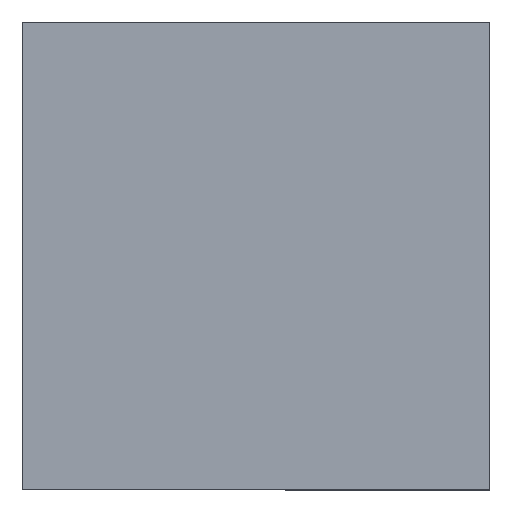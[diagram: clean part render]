
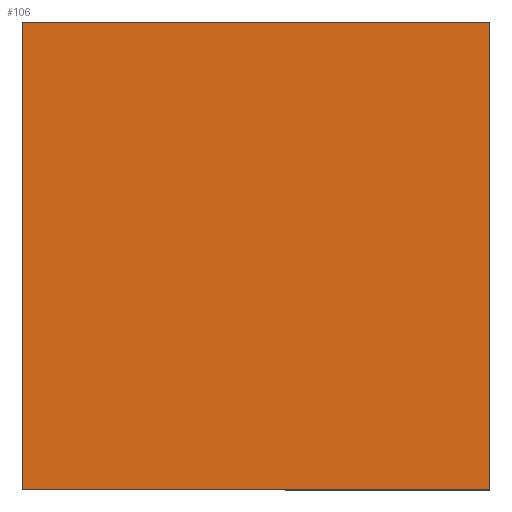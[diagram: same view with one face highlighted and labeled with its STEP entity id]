
A CAD part, top view. The second image highlights one B-rep face of the part: STEP entity #106.
In plain terms, the highlighted planar face has unit normal (0, 0, 1).
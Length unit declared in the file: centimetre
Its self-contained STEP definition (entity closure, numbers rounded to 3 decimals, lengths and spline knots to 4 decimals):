
#11 = EDGE_LOOP ( 'NONE', ( #150, #122, #237, #443 ) ) ;
#16 = CARTESIAN_POINT ( 'NONE',  ( 1000., 0., 1000. ) ) ;
#26 = DIRECTION ( 'NONE',  ( 0., -1., 0. ) ) ;
#50 = AXIS2_PLACEMENT_3D ( 'NONE', #190, #510, #455 ) ;
#52 = EDGE_CURVE ( 'NONE', #226, #275, #346, .T. ) ;
#65 = DIRECTION ( 'NONE',  ( 1., 0., 0. ) ) ;
#73 = FACE_OUTER_BOUND ( 'NONE', #11, .T. ) ;
#105 = DIRECTION ( 'NONE',  ( 0., 1., 0. ) ) ;
#106 = ADVANCED_FACE ( 'NONE', ( #73 ), #386, .T. ) ;
#122 = ORIENTED_EDGE ( 'NONE', *, *, #348, .T. ) ;
#130 = CARTESIAN_POINT ( 'NONE',  ( 0., 1000., 1000. ) ) ;
#142 = VERTEX_POINT ( 'NONE', #130 ) ;
#149 = CARTESIAN_POINT ( 'NONE',  ( 0., 1000., 1000. ) ) ;
#150 = ORIENTED_EDGE ( 'NONE', *, *, #492, .T. ) ;
#153 = LINE ( 'NONE', #384, #272 ) ;
#159 = VECTOR ( 'NONE', #65, 100. ) ;
#190 = CARTESIAN_POINT ( 'NONE',  ( 0., 0., 1000. ) ) ;
#223 = CARTESIAN_POINT ( 'NONE',  ( 1000., 1000., 1000. ) ) ;
#226 = VERTEX_POINT ( 'NONE', #16 ) ;
#237 = ORIENTED_EDGE ( 'NONE', *, *, #52, .T. ) ;
#250 = CARTESIAN_POINT ( 'NONE',  ( 1000., 1000., 1000. ) ) ;
#272 = VECTOR ( 'NONE', #506, 100. ) ;
#275 = VERTEX_POINT ( 'NONE', #250 ) ;
#308 = VECTOR ( 'NONE', #105, 100. ) ;
#315 = VECTOR ( 'NONE', #26, 100. ) ;
#329 = CARTESIAN_POINT ( 'NONE',  ( 0., 0., 1000. ) ) ;
#346 = LINE ( 'NONE', #223, #308 ) ;
#348 = EDGE_CURVE ( 'NONE', #374, #226, #446, .T. ) ;
#374 = VERTEX_POINT ( 'NONE', #329 ) ;
#384 = CARTESIAN_POINT ( 'NONE',  ( 0., 1000., 1000. ) ) ;
#386 = PLANE ( 'NONE',  #50 ) ;
#431 = LINE ( 'NONE', #149, #315 ) ;
#443 = ORIENTED_EDGE ( 'NONE', *, *, #490, .T. ) ;
#446 = LINE ( 'NONE', #493, #159 ) ;
#455 = DIRECTION ( 'NONE',  ( 1., 0., 0. ) ) ;
#490 = EDGE_CURVE ( 'NONE', #275, #142, #153, .T. ) ;
#492 = EDGE_CURVE ( 'NONE', #142, #374, #431, .T. ) ;
#493 = CARTESIAN_POINT ( 'NONE',  ( 0., 0., 1000. ) ) ;
#506 = DIRECTION ( 'NONE',  ( -1., 0., 0. ) ) ;
#510 = DIRECTION ( 'NONE',  ( 0., 0., 1. ) ) ;
